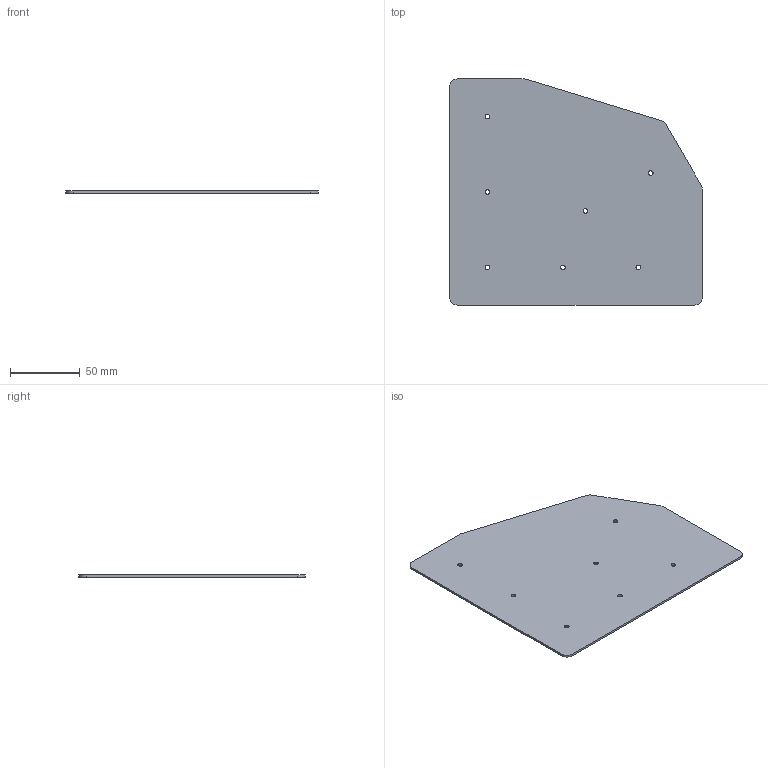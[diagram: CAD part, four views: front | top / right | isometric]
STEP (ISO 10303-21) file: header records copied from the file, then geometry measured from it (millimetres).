
FILE_DESCRIPTION (( 'STEP AP214' ), '1' );
FILE_NAME ('DRP-002-0015-02.step', '2010-06-23T19:16:30', ( '' ), ( '' ), 'SwSTEP 2.0', 'SolidWorks 2010', '' );
FILE_SCHEMA (( 'AUTOMOTIVE_DESIGN' ));
Length unit declared in the file: inch
Products named in the file (1): DRP-002-0015-02
Bounding box: 180.71 x 161.93 x 1.52 mm (x, y, z)
Volume: 39926.1 mm3; surface area: 53470.4 mm2
Topology: 1 solids, 1 shells, 28 faces, 78 edges, 52 vertices
Faces by surface type: cylinder 20, plane 8
Entity records: 990 total; most frequent: DIRECTION 176, CARTESIAN_POINT 159, ORIENTED_EDGE 156, EDGE_CURVE 78, AXIS2_PLACEMENT_3D 69, VERTEX_POINT 52, EDGE_LOOP 42, CIRCLE 40
